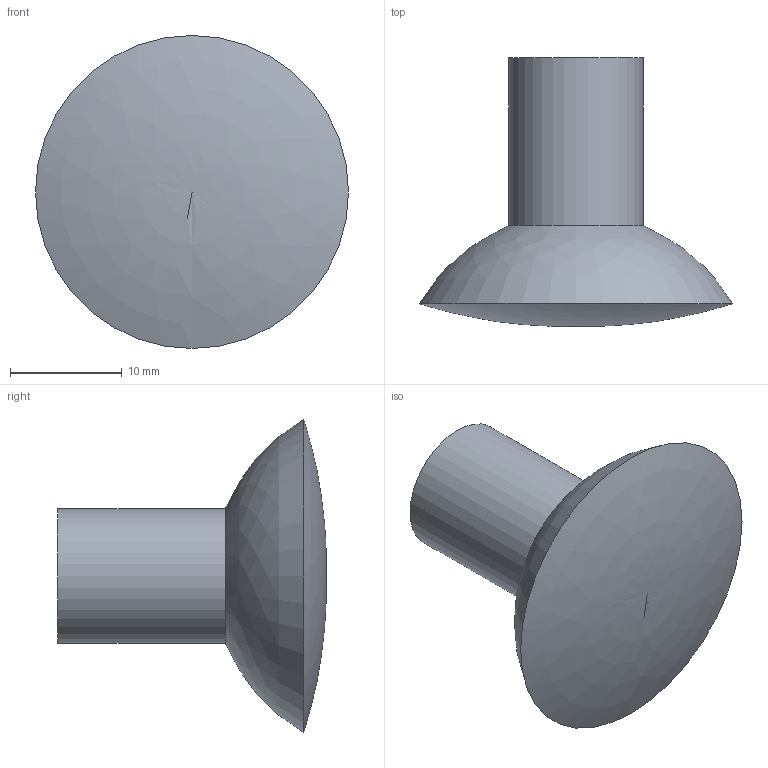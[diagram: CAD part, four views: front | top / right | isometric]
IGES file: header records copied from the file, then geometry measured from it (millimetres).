
Start section: Data from Parasolid IGES Translator 15.0.47, Copyright(c) 2006 Siemens P LM Software. All Rights Reserved.
Global section: file name: 9070537.igs; native system:  By UGS Corp.; preprocessor: XPlus GENERIC/IGES 3.0; author: Noname; organization: Noname; date: 20140122.162920; units: millimetre
Bounding box: 28 x 24.02 x 28 mm (x, y, z)
Surface area: 2115.1 mm2 (no closed solid volume)
Topology: 0 solids, 0 shells, 6 faces, 19 edges, 12 vertices
Faces by surface type: revolution 4, extrusion 2
